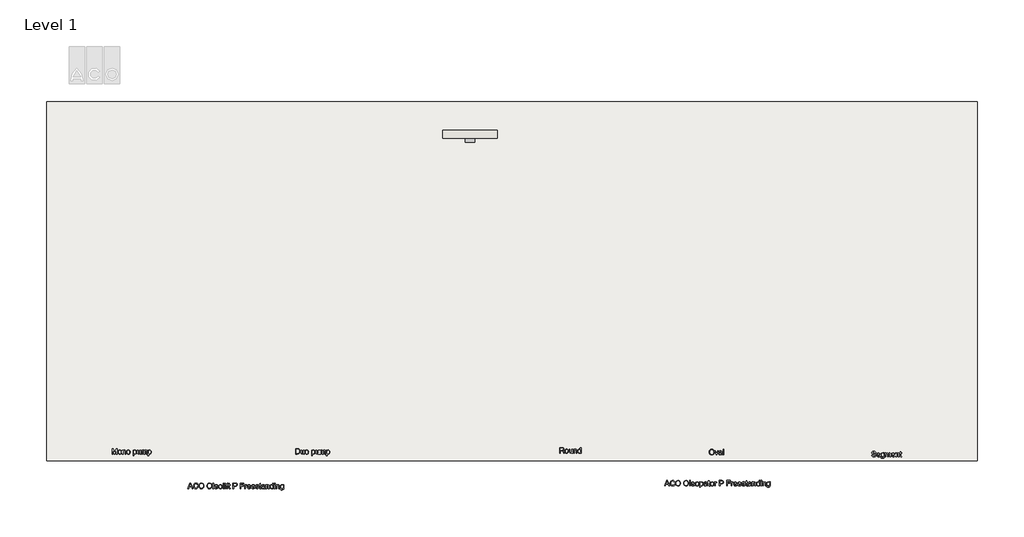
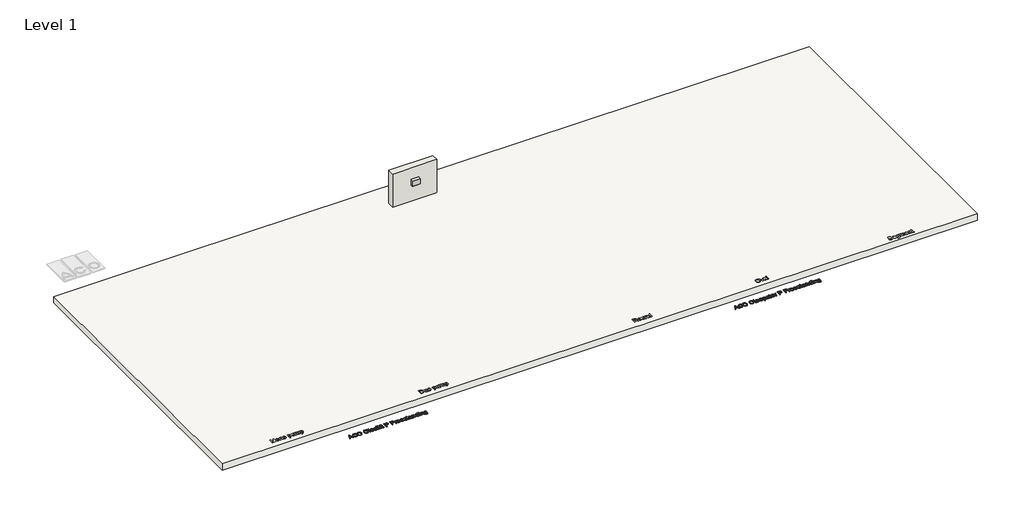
# One storey, part 1 of 2: 3 proxies, 1 slab, 1 wall.
"""IFC4 building model written with IfcOpenShell, lengths in millimetres."""

from ifc_helpers import new_model, si_unit, frame, origin, origin_with_axes, place, context, project, spatial, polyline, outline, extrude, transform, mapped, element, save
from components import alarm_device_213a9ecc

model = new_model("IFC4")

# Units and contexts
model_context = context("Model", 3, world=origin())
ifc_project = project(units=[si_unit("LENGTHUNIT", "METRE", prefix="MILLI")], contexts=[model_context])

# Site, building, storey
site = spatial("IfcSite", under=ifc_project)
building = spatial("IfcBuilding", under=site)
storey = spatial("IfcBuildingStorey", under=building, Name="Level 1", Elevation=0.0)

# Proxies
placement = place(None, origin())
element("IfcBuildingElementProxy", 1, Name="100mm ACO", ObjectType="100mm ACO", at=placement, inside=storey, context=model_context, shape_type="SweptSolid", body=[
    extrude(outline(polyline([(10944.551708, -16385.6235522), (10930.6689535, -16385.6235522), (10918.6197704, -16355.8207418), (10875.9237519, -16355.8207418), (10864.3402377, -16385.6235522), (10850.4865875, -16385.6235522), (10889.5736719, -16285.0390669), (10903.8347824, -16285.0390669), (10944.551708, -16385.6235522)]), holes=[polyline([(10914.0794985, -16344.6446878), (10899.5710014, -16307.7695307), (10896.5878099, -16296.040495), (10891.9020165, -16314.7254601), (10880.2893979, -16344.6446878), (10914.0794985, -16344.6446878)])]), origin_with_axes(), (0.0, 0.0, 1.0), 10.0),
    extrude(outline(polyline([(11039.0824975, -16353.6088144), (11033.1343047, -16368.5211338), (11023.9628099, -16379.0896353), (11012.1064428, -16385.3870797), (10998.1036331, -16387.4862279), (10977.0757712, -16383.608079), (10962.654587, -16371.9736322), (10954.316203, -16354.8821279), (10951.5367417, -16334.6328062), (10954.8000621, -16313.1210852), (10964.5900234, -16296.8408634), (10979.5096189, -16286.5925093), (10998.1618417, -16283.1763912), (11011.553461, -16284.9990485), (11022.8568462, -16290.4670202), (11031.5772243, -16299.449337), (11037.2198218, -16311.8150294), (11024.1810922, -16314.8418774), (11014.2710757, -16299.4893554), (10997.6670685, -16294.3524452), (10983.3623015, -16297.0773359), (10972.986616, -16305.2520082), (10966.6782575, -16318.0106088), (10964.5754713, -16334.4872847), (10966.8019508, -16352.9576055), (10973.4813893, -16365.9926971), (10983.7406575, -16373.7308047), (10996.7066263, -16376.310174), (11007.3369745, -16374.6839708), (11015.7699475, -16369.8053613), (11022.0055453, -16361.6597934), (11026.0437679, -16350.2327148), (11039.0824975, -16353.6088144)])), origin_with_axes(), (0.0, 0.0, 1.0), 10.0),
    extrude(outline(polyline([(11098.7754313, -16283.1763912), (11117.3730835, -16286.7707732), (11132.2453845, -16297.553919), (11142.0026034, -16314.2234108), (11145.2550097, -16335.4768311), (11141.9844132, -16356.6393004), (11132.1726237, -16373.2105652), (11117.2821326, -16383.9173122), (11098.7754313, -16387.4862279), (11079.792147, -16383.7863428), (11064.9271222, -16372.6866877), (11055.3227008, -16356.2609444), (11052.121227, -16336.5827948), (11055.3663573, -16314.3725704), (11065.101748, -16297.4520539), (11080.0104293, -16286.7453069), (11098.7754313, -16283.1763912)]), holes=[polyline([(11098.6590141, -16376.310174), (11112.1779647, -16373.6107495), (11122.8737976, -16365.512476), (11129.8515552, -16352.6047158), (11132.2162802, -16335.4768311), (11129.8479172, -16317.9669523), (11122.7428282, -16305.0191737), (11112.0506334, -16297.0191273), (11098.9209528, -16294.3524452), (11085.4965912, -16296.9645567), (11074.677065, -16304.8008914), (11067.5392337, -16318.0360751), (11065.1599566, -16336.8447335), (11067.4883012, -16352.8193601), (11074.4733349, -16365.4106109), (11085.1764438, -16373.5852832), (11098.6590141, -16376.310174)])]), origin_with_axes(), (0.0, 0.0, 1.0), 10.0),
    extrude(outline(polyline([(11245.926808, -16283.1763912), (11264.5244602, -16286.7707732), (11279.3967611, -16297.553919), (11289.1539801, -16314.2234108), (11292.4063864, -16335.4768311), (11289.1357899, -16356.6393004), (11279.3240004, -16373.2105652), (11264.4335092, -16383.9173122), (11245.926808, -16387.4862279), (11226.9435237, -16383.7863428), (11212.0784988, -16372.6866877), (11202.4740775, -16356.2609444), (11199.2726037, -16336.5827948), (11202.5177339, -16314.3725704), (11212.2531247, -16297.4520539), (11227.161806, -16286.7453069), (11245.926808, -16283.1763912)]), holes=[polyline([(11245.8103907, -16376.310174), (11259.3293414, -16373.6107495), (11270.0251742, -16365.512476), (11277.0029319, -16352.6047158), (11279.3676568, -16335.4768311), (11276.9992938, -16317.9669523), (11269.8942049, -16305.0191737), (11259.20201, -16297.0191273), (11246.0723295, -16294.3524452), (11232.6479679, -16296.9645567), (11221.8284417, -16304.8008914), (11214.6906104, -16318.0360751), (11212.3113333, -16336.8447335), (11214.6396778, -16352.8193601), (11221.6247115, -16365.4106109), (11232.3278205, -16373.5852832), (11245.8103907, -16376.310174)])]), origin_with_axes(), (0.0, 0.0, 1.0), 10.0),
    extrude(outline(polyline([(11322.2091969, -16385.6235522), (11309.1704673, -16385.6235522), (11309.1704673, -16285.0390669), (11322.2091969, -16285.0390669), (11322.2091969, -16385.6235522)])), origin_with_axes(), (0.0, 0.0, 1.0), 10.0),
    extrude(outline(polyline([(11404.1669256, -16352.0953904), (11350.1493317, -16352.0953904), (11352.2339277, -16363.2859965), (11356.9742917, -16371.478859), (11363.7956137, -16376.4993519), (11372.1230835, -16378.1728496), (11383.8666714, -16374.4620505), (11391.1281961, -16363.2714444), (11404.1669256, -16364.7848683), (11399.7648992, -16374.4620505), (11392.7871416, -16381.6071578), (11383.4883155, -16386.0164604), (11372.1230835, -16387.4862279), (11357.4508747, -16384.9650673), (11346.3803239, -16377.4015855), (11339.4280326, -16365.4724576), (11337.1106021, -16349.8543588), (11339.3443577, -16334.2253459), (11346.0456244, -16321.8560154), (11356.8069419, -16313.8013984), (11371.22085, -16311.1165261), (11386.5297155, -16314.5944908), (11399.0300154, -16326.4399437), (11402.8826981, -16337.0375496), (11404.1669256, -16352.0953904)]), holes=[polyline([(11391.1281961, -16342.7820122), (11389.032686, -16332.5664004), (11384.2595796, -16325.6686796), (11370.9007026, -16320.4299043), (11362.9988833, -16321.9869848), (11356.6395922, -16326.658226), (11350.1493317, -16342.7820122), (11391.1281961, -16342.7820122)])]), origin_with_axes(), (0.0, 0.0, 1.0), 10.0),
    extrude(outline(polyline([(11448.842037, -16311.1165261), (11462.0954109, -16313.5249075), (11472.8676425, -16320.7500517), (11480.016388, -16332.4136028), (11482.3993031, -16348.1372047), (11479.8199339, -16366.5165746), (11472.0818263, -16378.5803099), (11461.1131405, -16385.2597484), (11448.842037, -16387.4862279), (11436.1780254, -16385.1979017), (11425.3112048, -16378.3329233), (11417.8350359, -16366.4983844), (11415.3429796, -16349.301377), (11417.751361, -16332.4863635), (11424.9765052, -16320.5754259), (11435.759651, -16313.481251), (11448.842037, -16311.1165261)]), holes=[polyline([(11448.842037, -16378.1728496), (11457.7006605, -16376.1537383), (11464.1363504, -16370.0964044), (11469.3605735, -16348.8357081), (11467.88353, -16336.4809297), (11463.4523992, -16327.5895639), (11456.8457215, -16322.2198192), (11448.842037, -16320.4299043), (11440.6819169, -16322.2452855), (11434.1298098, -16327.6914289), (11429.8187343, -16336.7319543), (11428.3817092, -16349.3304813), (11429.8442006, -16361.8853517), (11434.2316749, -16370.911325), (11440.8092483, -16376.3574685), (11448.842037, -16378.1728496)])]), origin_with_axes(), (0.0, 0.0, 1.0), 10.0),
    extrude(outline(polyline([(11510.4704073, -16321.7395981), (11518.9761411, -16313.7722941), (11530.7124529, -16311.1165261), (11543.1108877, -16313.7213615), (11552.5988918, -16321.535868), (11558.6234834, -16333.5341186), (11560.6316806, -16348.6901865), (11558.3615446, -16364.6720892), (11551.5511368, -16376.9941252), (11541.4373901, -16384.8632022), (11529.2572375, -16387.4862279), (11518.8233434, -16385.3470613), (11510.6886896, -16378.9295616), (11510.3394379, -16413.563687), (11497.3007084, -16413.563687), (11497.3007084, -16312.9792017), (11510.3394379, -16312.9792017), (11510.4704073, -16321.7395981)]), holes=[polyline([(11527.8311265, -16378.1728496), (11535.649271, -16376.3356402), (11541.9903719, -16370.8240121), (11546.1923062, -16361.6743455), (11547.592951, -16348.923021), (11546.2432388, -16336.7756108), (11542.194102, -16327.8078462), (11536.0421791, -16322.2743898), (11528.3841083, -16320.4299043), (11520.4568227, -16322.485396), (11514.0793414, -16328.6518711), (11509.8774071, -16338.0925807), (11508.4767623, -16349.970776), (11509.8191984, -16362.1545666), (11513.8465069, -16370.9986379), (11520.0275342, -16376.3792967), (11527.8311265, -16378.1728496)])]), origin_with_axes(), (0.0, 0.0, 1.0), 10.0),
    extrude(outline(polyline([(11638.8640581, -16385.6235522), (11625.8253285, -16385.6235522), (11622.0999772, -16376.8340515), (11609.5341926, -16384.8231838), (11595.9934137, -16387.4862279), (11585.9487897, -16386.0310125), (11578.2834428, -16381.6653665), (11573.4266616, -16374.9131672), (11571.8077345, -16366.2982923), (11573.3939192, -16357.9417181), (11578.1524735, -16351.2077091), (11586.8328331, -16346.2854431), (11600.1844339, -16343.3640983), (11611.5933223, -16341.6178399), (11622.0999772, -16339.0566609), (11621.7652776, -16330.9802157), (11619.8152891, -16326.0761399), (11614.6201702, -16321.9869848), (11604.9866446, -16320.4299043), (11592.8355964, -16323.5877216), (11586.7091397, -16335.3313096), (11573.6704102, -16333.7305727), (11577.2466019, -16323.8642126), (11583.9587827, -16316.7918659), (11593.7996766, -16312.535361), (11606.7620073, -16311.1165261), (11626.1309237, -16315.0019511), (11633.7271479, -16324.3735379), (11635.1387068, -16338.503679), (11635.1387068, -16355.1222384), (11635.6916886, -16375.4952534), (11638.8640581, -16385.6235522)]), holes=[polyline([(11622.0999772, -16353.0267283), (11622.0999772, -16348.3700391), (11598.6855621, -16353.7252316), (11588.3062386, -16357.8071107), (11584.8464641, -16366.0945622), (11588.5718154, -16374.7676457), (11599.3113047, -16378.1728496), (11615.2168085, -16372.4684054), (11620.379185, -16364.755764), (11622.0999772, -16353.0267283)])]), origin_with_axes(), (0.0, 0.0, 1.0), 10.0),
    extrude(outline(polyline([(11681.7055981, -16386.642203), (11672.5668457, -16387.4862279), (11660.9105707, -16384.5903493), (11656.4430595, -16377.2415118), (11655.6281389, -16364.843077), (11655.6281389, -16322.29258), (11646.3147607, -16322.29258), (11646.3147607, -16312.9792017), (11655.6281389, -16312.9792017), (11655.6281389, -16294.527071), (11668.6668685, -16286.9017426), (11668.6668685, -16312.9792017), (11679.8429224, -16312.9792017), (11679.8429224, -16322.29258), (11668.6668685, -16322.29258), (11668.6668685, -16367.4624646), (11669.7146236, -16375.7280878), (11675.0407118, -16378.1728496), (11680.1048612, -16378.1728496), (11681.7055981, -16386.642203)])), origin_with_axes(), (0.0, 0.0, 1.0), 10.0),
    extrude(outline(polyline([(11722.6553582, -16311.1165261), (11735.908732, -16313.5249075), (11746.6809637, -16320.7500517), (11753.8297091, -16332.4136028), (11756.2126243, -16348.1372047), (11753.633255, -16366.5165746), (11745.8951474, -16378.5803099), (11734.9264617, -16385.2597484), (11722.6553582, -16387.4862279), (11709.9913466, -16385.1979017), (11699.1245259, -16378.3329233), (11691.648357, -16366.4983844), (11689.1563007, -16349.301377), (11691.5646821, -16332.4863635), (11698.7898264, -16320.5754259), (11709.5729721, -16313.481251), (11722.6553582, -16311.1165261)]), holes=[polyline([(11722.6553582, -16378.1728496), (11731.5139817, -16376.1537383), (11737.9496716, -16370.0964044), (11743.1738947, -16348.8357081), (11741.6968511, -16336.4809297), (11737.2657203, -16327.5895639), (11730.6590426, -16322.2198192), (11722.6553582, -16320.4299043), (11714.4952381, -16322.2452855), (11707.9431309, -16327.6914289), (11703.6320555, -16336.7319543), (11702.1950303, -16349.3304813), (11703.6575217, -16361.8853517), (11708.044996, -16370.911325), (11714.6225694, -16376.3574685), (11722.6553582, -16378.1728496)])]), origin_with_axes(), (0.0, 0.0, 1.0), 10.0),
    extrude(outline(polyline([(11810.2302182, -16313.9687482), (11806.1556152, -16322.29258), (11797.598949, -16320.4299043), (11791.7708115, -16322.0670216), (11787.557963, -16326.9783734), (11784.1527591, -16345.3140869), (11784.1527591, -16385.6235522), (11771.1140295, -16385.6235522), (11771.1140295, -16312.9792017), (11782.2900834, -16312.9792017), (11782.2900834, -16323.7477953), (11789.260565, -16314.2743434), (11797.7444705, -16311.1165261), (11810.2302182, -16313.9687482)])), origin_with_axes(), (0.0, 0.0, 1.0), 10.0),
    extrude(outline(polyline([(11858.6597852, -16285.0390669), (11896.4371758, -16285.0390669), (11911.8333543, -16285.9267483), (11923.8243288, -16290.5397809), (11932.1918171, -16300.6535277), (11935.0294871, -16314.0269568), (11932.7920934, -16326.5308947), (11926.0799126, -16336.2771995), (11914.4345517, -16342.5528158), (11897.397618, -16344.6446878), (11871.6985148, -16344.6446878), (11871.6985148, -16385.6235522), (11858.6597852, -16385.6235522), (11858.6597852, -16285.0390669)]), holes=[polyline([(11871.6985148, -16333.4686339), (11897.9214955, -16333.4686339), (11915.973442, -16328.7028036), (11920.4864286, -16322.7455158), (11921.9907575, -16314.4053128), (11918.8620445, -16303.3602282), (11911.1785074, -16297.3938453), (11897.6304524, -16296.2151208), (11871.6985148, -16296.2151208), (11871.6985148, -16333.4686339)])]), origin_with_axes(), (0.0, 0.0, 1.0), 10.0),
    extrude(outline(polyline([(12057.9660802, -16296.2151208), (12003.9484863, -16296.2151208), (12003.9484863, -16327.8806069), (12050.5153776, -16327.8806069), (12050.5153776, -16339.0566609), (12003.9484863, -16339.0566609), (12003.9484863, -16385.6235522), (11990.9097567, -16385.6235522), (11990.9097567, -16285.0390669), (12057.9660802, -16285.0390669), (12057.9660802, -16296.2151208)])), origin_with_axes(), (0.0, 0.0, 1.0), 10.0),
    extrude(outline(polyline([(12113.8463498, -16313.9687482), (12109.7717469, -16322.29258), (12101.2150806, -16320.4299043), (12095.3869431, -16322.0670216), (12091.1740946, -16326.9783734), (12087.7688907, -16345.3140869), (12087.7688907, -16385.6235522), (12074.7301611, -16385.6235522), (12074.7301611, -16312.9792017), (12085.906215, -16312.9792017), (12085.906215, -16323.7477953), (12092.8766966, -16314.2743434), (12101.3606021, -16311.1165261), (12113.8463498, -16313.9687482)])), origin_with_axes(), (0.0, 0.0, 1.0), 10.0),
    extrude(outline(polyline([(12184.6280247, -16352.0953904), (12130.6104307, -16352.0953904), (12132.6950267, -16363.2859965), (12137.4353907, -16371.478859), (12144.2567127, -16376.4993519), (12152.5841826, -16378.1728496), (12164.3277705, -16374.4620505), (12171.5892951, -16363.2714444), (12184.6280247, -16364.7848683), (12180.2259983, -16374.4620505), (12173.2482406, -16381.6071578), (12163.9494145, -16386.0164604), (12152.5841826, -16387.4862279), (12137.9119738, -16384.9650673), (12126.841423, -16377.4015855), (12119.8891316, -16365.4724576), (12117.5717012, -16349.8543588), (12119.8054567, -16334.2253459), (12126.5067234, -16321.8560154), (12137.268041, -16313.8013984), (12151.6819491, -16311.1165261), (12166.9908146, -16314.5944908), (12179.4911145, -16326.4399437), (12183.3437971, -16337.0375496), (12184.6280247, -16352.0953904)]), holes=[polyline([(12171.5892951, -16342.7820122), (12169.493785, -16332.5664004), (12164.7206786, -16325.6686796), (12151.3618017, -16320.4299043), (12143.4599823, -16321.9869848), (12137.1006912, -16326.658226), (12130.6104307, -16342.7820122), (12171.5892951, -16342.7820122)])]), origin_with_axes(), (0.0, 0.0, 1.0), 10.0),
    extrude(outline(polyline([(12262.8604022, -16352.0953904), (12208.8428082, -16352.0953904), (12210.9274042, -16363.2859965), (12215.6677682, -16371.478859), (12222.4890902, -16376.4993519), (12230.8165601, -16378.1728496), (12242.560148, -16374.4620505), (12249.8216726, -16363.2714444), (12262.8604022, -16364.7848683), (12258.4583757, -16374.4620505), (12251.4806181, -16381.6071578), (12242.181792, -16386.0164604), (12230.8165601, -16387.4862279), (12216.1443512, -16384.9650673), (12205.0738004, -16377.4015855), (12198.1215091, -16365.4724576), (12195.8040786, -16349.8543588), (12198.0378342, -16334.2253459), (12204.7391009, -16321.8560154), (12215.5004184, -16313.8013984), (12229.9143265, -16311.1165261), (12245.2231921, -16314.5944908), (12257.723492, -16326.4399437), (12261.5761746, -16337.0375496), (12262.8604022, -16352.0953904)]), holes=[polyline([(12249.8216726, -16342.7820122), (12247.7261625, -16332.5664004), (12242.9530561, -16325.6686796), (12229.5941792, -16320.4299043), (12221.6923598, -16321.9869848), (12215.3330687, -16326.658226), (12208.8428082, -16342.7820122), (12249.8216726, -16342.7820122)])]), origin_with_axes(), (0.0, 0.0, 1.0), 10.0),
    extrude(outline(polyline([(12318.7406718, -16333.4686339), (12313.923909, -16323.6895867), (12302.7915115, -16320.4299043), (12291.4117274, -16323.2239178), (12287.0751857, -16331.3440195), (12289.9419599, -16338.5327833), (12303.4609106, -16342.4327605), (12321.2872987, -16346.6237807), (12330.3823946, -16352.9830718), (12333.642077, -16364.377408), (12331.6193277, -16373.3597248), (12325.5510797, -16380.8067894), (12316.0994559, -16385.8163683), (12303.9265795, -16387.4862279), (12291.3789851, -16386.0819451), (12281.9091712, -16381.8690966), (12275.5098616, -16374.8549586), (12272.1737804, -16365.0468071), (12285.21251, -16363.2714444), (12290.8441934, -16374.4620505), (12303.9265795, -16378.1728496), (12316.29591, -16374.3165289), (12320.6033474, -16364.9303899), (12318.667911, -16358.9203505), (12313.836596, -16355.5296987), (12300.1721239, -16352.619268), (12286.91875, -16349.3741377), (12279.1151577, -16344.7611051), (12274.0364561, -16332.1007315), (12275.9173219, -16323.7659855), (12281.5599195, -16317.0392526), (12290.3821626, -16312.5972077), (12301.8019651, -16311.1165261), (12313.8038537, -16312.4116677), (12322.8007226, -16316.2970927), (12328.7925719, -16322.765525), (12331.7794014, -16331.8096884), (12318.7406718, -16333.4686339)])), origin_with_axes(), (0.0, 0.0, 1.0), 10.0),
    extrude(outline(polyline([(12374.6209414, -16386.642203), (12365.482189, -16387.4862279), (12353.825914, -16384.5903493), (12349.3584029, -16377.2415118), (12348.5434823, -16364.843077), (12348.5434823, -16322.29258), (12339.230104, -16322.29258), (12339.230104, -16312.9792017), (12348.5434823, -16312.9792017), (12348.5434823, -16294.527071), (12361.5822118, -16286.9017426), (12361.5822118, -16312.9792017), (12372.7582658, -16312.9792017), (12372.7582658, -16322.29258), (12361.5822118, -16322.29258), (12361.5822118, -16367.4624646), (12362.6299669, -16375.7280878), (12367.9560551, -16378.1728496), (12373.0202045, -16378.1728496), (12374.6209414, -16386.642203)])), origin_with_axes(), (0.0, 0.0, 1.0), 10.0),
    extrude(outline(polyline([(12449.1279676, -16385.6235522), (12436.089238, -16385.6235522), (12432.3638867, -16376.8340515), (12419.7981021, -16384.8231838), (12406.2573232, -16387.4862279), (12396.2126992, -16386.0310125), (12388.5473524, -16381.6653665), (12383.6905711, -16374.9131672), (12382.071644, -16366.2982923), (12383.6578288, -16357.9417181), (12388.416383, -16351.2077091), (12397.0967426, -16346.2854431), (12410.4483434, -16343.3640983), (12421.8572318, -16341.6178399), (12432.3638867, -16339.0566609), (12432.0291872, -16330.9802157), (12430.0791986, -16326.0761399), (12424.8840798, -16321.9869848), (12415.2505541, -16320.4299043), (12403.0995059, -16323.5877216), (12396.9730493, -16335.3313096), (12383.9343197, -16333.7305727), (12387.5105114, -16323.8642126), (12394.2226922, -16316.7918659), (12404.0635861, -16312.535361), (12417.0259169, -16311.1165261), (12436.3948332, -16315.0019511), (12443.9910574, -16324.3735379), (12445.4026163, -16338.503679), (12445.4026163, -16355.1222384), (12445.9555981, -16375.4952534), (12449.1279676, -16385.6235522)]), holes=[polyline([(12432.3638867, -16353.0267283), (12432.3638867, -16348.3700391), (12408.9494716, -16353.7252316), (12398.5701481, -16357.8071107), (12395.1103736, -16366.0945622), (12398.8357249, -16374.7676457), (12409.5752142, -16378.1728496), (12425.4807181, -16372.4684054), (12430.6430945, -16364.755764), (12432.3638867, -16353.0267283)])]), origin_with_axes(), (0.0, 0.0, 1.0), 10.0),
    extrude(outline(polyline([(12523.6349937, -16385.6235522), (12510.5962642, -16385.6235522), (12510.5962642, -16340.395459), (12506.7108392, -16324.7082375), (12495.8985891, -16320.4299043), (12485.8139467, -16323.1657092), (12479.0617474, -16330.8783506), (12477.0681024, -16344.9648352), (12477.0681024, -16385.6235522), (12464.0293728, -16385.6235522), (12464.0293728, -16312.9792017), (12475.2054267, -16312.9792017), (12475.2054267, -16323.0783963), (12485.1590998, -16314.0997175), (12498.4888724, -16311.1165261), (12509.9268651, -16313.1829319), (12518.7745745, -16319.3675971), (12522.805521, -16328.1570979), (12523.6349937, -16340.773815), (12523.6349937, -16385.6235522)])), origin_with_axes(), (0.0, 0.0, 1.0), 10.0),
    extrude(outline(polyline([(12601.8673712, -16385.6235522), (12588.8286416, -16385.6235522), (12588.8286416, -16377.4161376), (12580.424773, -16384.9687053), (12568.9795042, -16387.4862279), (12557.0431002, -16384.8304599), (12547.2531389, -16376.8631558), (12540.715584, -16364.661175), (12538.536399, -16349.301377), (12540.624633, -16333.4686339), (12546.8893351, -16321.3612422), (12556.5810694, -16313.6777051), (12568.9503999, -16311.1165261), (12580.3010797, -16313.4157663), (12588.5667029, -16320.3134871), (12588.8286416, -16285.0390669), (12601.8673712, -16285.0390669), (12601.8673712, -16385.6235522)]), holes=[polyline([(12570.4929282, -16378.1728496), (12577.587103, -16376.4556955), (12583.5025534, -16371.3042331), (12587.4971196, -16362.6602539), (12588.8286416, -16350.4655493), (12583.9536702, -16328.5791103), (12578.0200296, -16322.4672058), (12569.9690506, -16320.4299043), (12561.9762803, -16322.4235494), (12556.2172655, -16328.4044845), (12551.5751285, -16349.3304813), (12554.078099, -16365.1777765), (12561.0631327, -16374.9131672), (12570.4929282, -16378.1728496)])]), origin_with_axes(), (0.0, 0.0, 1.0), 10.0),
    extrude(outline(polyline([(12633.5328573, -16385.6235522), (12620.4941277, -16385.6235522), (12620.4941277, -16312.9792017), (12633.5328573, -16312.9792017), (12633.5328573, -16385.6235522)])), origin_with_axes(), (0.0, 0.0, 1.0), 10.0),
    extrude(outline(polyline([(12633.5328573, -16298.0777965), (12620.4941277, -16298.0777965), (12620.4941277, -16285.0390669), (12633.5328573, -16285.0390669), (12633.5328573, -16298.0777965)])), origin_with_axes(), (0.0, 0.0, 1.0), 10.0),
    extrude(outline(polyline([(12711.7652348, -16385.6235522), (12698.7265052, -16385.6235522), (12698.7265052, -16340.395459), (12694.8410802, -16324.7082375), (12684.0288301, -16320.4299043), (12673.9441877, -16323.1657092), (12667.1919885, -16330.8783506), (12665.1983434, -16344.9648352), (12665.1983434, -16385.6235522), (12652.1596139, -16385.6235522), (12652.1596139, -16312.9792017), (12663.3356678, -16312.9792017), (12663.3356678, -16323.0783963), (12673.2893408, -16314.0997175), (12686.6191135, -16311.1165261), (12698.0571062, -16313.1829319), (12706.9048155, -16319.3675971), (12710.935762, -16328.1570979), (12711.7652348, -16340.773815), (12711.7652348, -16385.6235522)])), origin_with_axes(), (0.0, 0.0, 1.0), 10.0),
    extrude(outline(polyline([(12789.9976123, -16374.9131672), (12786.9271079, -16397.6872875), (12775.9984406, -16409.387219), (12757.2261625, -16413.563687), (12745.9446054, -16412.1484901), (12736.7221781, -16407.9028993), (12730.5775313, -16400.4340065), (12728.5293157, -16389.3489035), (12741.5680453, -16391.4153093), (12746.1665258, -16401.0342828), (12757.4298926, -16404.2503088), (12770.8178739, -16400.5395096), (12776.0129927, -16391.5026223), (12776.9588827, -16376.8049472), (12768.1330016, -16383.418901), (12757.2552668, -16385.6235522), (12744.7913473, -16382.9968885), (12735.0486805, -16375.1168974), (12728.7621501, -16363.235064), (12726.66664, -16348.6028736), (12728.6602851, -16333.8760942), (12734.6412202, -16321.8269111), (12744.1437764, -16313.7941223), (12756.702285, -16311.1165261), (12767.8419585, -16313.5103553), (12776.6969439, -16320.6918431), (12776.9588827, -16312.9792017), (12789.9976123, -16312.9792017), (12789.9976123, -16374.9131672)]), holes=[polyline([(12759.2052554, -16376.310174), (12766.4595039, -16374.6948849), (12772.8551754, -16369.8490178), (12777.3299626, -16361.2050386), (12778.8215583, -16348.1954133), (12777.3990853, -16336.3390462), (12773.1316663, -16327.604116), (12766.7687372, -16322.2234573), (12759.0597338, -16320.4299043), (12751.2925219, -16322.2671137), (12745.1042186, -16327.7787419), (12741.0550819, -16336.4845677), (12739.7053696, -16347.9043702), (12741.1205665, -16360.6957132), (12745.3661573, -16369.4997661), (12751.6563257, -16374.607572), (12759.2052554, -16376.310174)])]), origin_with_axes(), (0.0, 0.0, 1.0), 10.0),
])
element("IfcBuildingElementProxy", 2, Name="100mm ACO", ObjectType="100mm ACO", at=placement, inside=storey, context=model_context, shape_type="SweptSolid", body=[
    extrude(outline(polyline([(2187.7484293, -16434.4760112), (2173.8656748, -16434.4760112), (2161.8164917, -16404.6732008), (2119.1204732, -16404.6732008), (2107.536959, -16434.4760112), (2093.6833088, -16434.4760112), (2132.7703932, -16333.8915259), (2147.0315037, -16333.8915259), (2187.7484293, -16434.4760112)]), holes=[polyline([(2157.2762198, -16393.4971468), (2142.7677227, -16356.6219898), (2139.7845312, -16344.892954), (2135.0987378, -16363.5779192), (2123.4861193, -16393.4971468), (2157.2762198, -16393.4971468)])]), origin_with_axes(), (0.0, 0.0, 1.0), 10.0),
    extrude(outline(polyline([(2282.2792188, -16402.4612734), (2276.331026, -16417.3735928), (2267.1595312, -16427.9420943), (2255.3031641, -16434.2395387), (2241.3003544, -16436.3386869), (2220.2724925, -16432.460538), (2205.8513083, -16420.8260912), (2197.5129243, -16403.7345869), (2194.733463, -16383.4852652), (2197.9967835, -16361.9735442), (2207.7867448, -16345.6933224), (2222.7063402, -16335.4449683), (2241.358563, -16332.0288503), (2254.7501823, -16333.8515075), (2266.0535676, -16339.3194792), (2274.7739456, -16348.301796), (2280.4165431, -16360.6674884), (2267.3778135, -16363.6943364), (2257.467797, -16348.3418144), (2240.8637898, -16343.2049042), (2226.5590228, -16345.9297949), (2216.1833374, -16354.1044672), (2209.8749788, -16366.8630678), (2207.7721926, -16383.3397437), (2209.9986721, -16401.8100646), (2216.6781106, -16414.8451561), (2226.9373788, -16422.5832638), (2239.9033476, -16425.162633), (2250.5336958, -16423.5364298), (2258.9666688, -16418.6578203), (2265.2022666, -16410.5122524), (2269.2404892, -16399.0851738), (2282.2792188, -16402.4612734)])), origin_with_axes(), (0.0, 0.0, 1.0), 10.0),
    extrude(outline(polyline([(2341.9721526, -16332.0288503), (2360.5698048, -16335.6232322), (2375.4421058, -16346.406378), (2385.1993247, -16363.0758699), (2388.451731, -16384.3292901), (2385.1811345, -16405.4917594), (2375.369345, -16422.0630243), (2360.4788539, -16432.7697712), (2341.9721526, -16436.3386869), (2322.9888683, -16432.6388019), (2308.1238435, -16421.5391467), (2298.5194221, -16405.1134034), (2295.3179483, -16385.4352538), (2298.5630786, -16363.2250294), (2308.2984693, -16346.3045129), (2323.2071506, -16335.5977659), (2341.9721526, -16332.0288503)]), holes=[polyline([(2341.8557354, -16425.162633), (2355.374686, -16422.4632085), (2366.0705189, -16414.364935), (2373.0482765, -16401.4571748), (2375.4130015, -16384.3292901), (2373.0446385, -16366.8194114), (2365.9395495, -16353.8716327), (2355.2473547, -16345.8715863), (2342.1176741, -16343.2049042), (2328.6933125, -16345.8170158), (2317.8737863, -16353.6533504), (2310.735955, -16366.8885341), (2308.3566779, -16385.6971925), (2310.6850225, -16401.6718191), (2317.6700562, -16414.26307), (2328.3731651, -16422.4377422), (2341.8557354, -16425.162633)])]), origin_with_axes(), (0.0, 0.0, 1.0), 10.0),
    extrude(outline(polyline([(2489.1235293, -16332.0288503), (2507.7211815, -16335.6232322), (2522.5934824, -16346.406378), (2532.3507014, -16363.0758699), (2535.6031077, -16384.3292901), (2532.3325112, -16405.4917594), (2522.5207217, -16422.0630243), (2507.6302306, -16432.7697712), (2489.1235293, -16436.3386869), (2470.140245, -16432.6388019), (2455.2752201, -16421.5391467), (2445.6707988, -16405.1134034), (2442.469325, -16385.4352538), (2445.7144553, -16363.2250294), (2455.449846, -16346.3045129), (2470.3585273, -16335.5977659), (2489.1235293, -16332.0288503)]), holes=[polyline([(2489.0071121, -16425.162633), (2502.5260627, -16422.4632085), (2513.2218956, -16414.364935), (2520.1996532, -16401.4571748), (2522.5643781, -16384.3292901), (2520.1960151, -16366.8194114), (2513.0909262, -16353.8716327), (2502.3987314, -16345.8715863), (2489.2690508, -16343.2049042), (2475.8446892, -16345.8170158), (2465.025163, -16353.6533504), (2457.8873317, -16366.8885341), (2455.5080546, -16385.6971925), (2457.8363992, -16401.6718191), (2464.8214329, -16414.26307), (2475.5245418, -16422.4377422), (2489.0071121, -16425.162633)])]), origin_with_axes(), (0.0, 0.0, 1.0), 10.0),
    extrude(outline(polyline([(2565.4059182, -16434.4760112), (2552.3671886, -16434.4760112), (2552.3671886, -16333.8915259), (2565.4059182, -16333.8915259), (2565.4059182, -16434.4760112)])), origin_with_axes(), (0.0, 0.0, 1.0), 10.0),
    extrude(outline(polyline([(2647.363647, -16400.9478495), (2593.346053, -16400.9478495), (2595.430649, -16412.1384555), (2600.171013, -16420.331318), (2606.992335, -16425.351811), (2615.3198048, -16427.0253086), (2627.0633928, -16423.3145095), (2634.3249174, -16412.1239034), (2647.363647, -16413.6373274), (2642.9616205, -16423.3145095), (2635.9838629, -16430.4596169), (2626.6850368, -16434.8689194), (2615.3198048, -16436.3386869), (2600.647596, -16433.8175263), (2589.5770452, -16426.2540445), (2582.6247539, -16414.3249166), (2580.3073234, -16398.7068178), (2582.541079, -16383.0778049), (2589.2423457, -16370.7084744), (2600.0036632, -16362.6538574), (2614.4175713, -16359.9689851), (2629.7264369, -16363.4469498), (2642.2267368, -16375.2924028), (2646.0794194, -16385.8900086), (2647.363647, -16400.9478495)]), holes=[polyline([(2634.3249174, -16391.6344712), (2632.2294073, -16381.4188594), (2627.4563009, -16374.5211386), (2614.0974239, -16369.2823633), (2606.1956046, -16370.8394438), (2599.8363135, -16375.5106851), (2593.346053, -16391.6344712), (2634.3249174, -16391.6344712)])]), origin_with_axes(), (0.0, 0.0, 1.0), 10.0),
    extrude(outline(polyline([(2692.0387583, -16359.9689851), (2705.2921322, -16362.3773665), (2716.0643639, -16369.6025107), (2723.2131093, -16381.2660618), (2725.5960244, -16396.9896637), (2723.0166552, -16415.3690336), (2715.2785476, -16427.4327689), (2704.3098618, -16434.1122074), (2692.0387583, -16436.3386869), (2679.3747467, -16434.0503607), (2668.5079261, -16427.1853823), (2661.0317572, -16415.3508434), (2658.5397009, -16398.153836), (2660.9480823, -16381.3388226), (2668.1732265, -16369.4278849), (2678.9563723, -16362.33371), (2692.0387583, -16359.9689851)]), holes=[polyline([(2692.0387583, -16427.0253086), (2700.8973818, -16425.0061973), (2707.3330717, -16418.9488634), (2712.5572949, -16397.6881671), (2711.0802513, -16385.3333887), (2706.6491205, -16376.4420229), (2700.0424428, -16371.0722782), (2692.0387583, -16369.2823633), (2683.8786382, -16371.0977445), (2677.3265311, -16376.543888), (2673.0154556, -16385.5844134), (2671.5784305, -16398.1829403), (2673.0409219, -16410.7378108), (2677.4283962, -16419.763784), (2684.0059696, -16425.2099275), (2692.0387583, -16427.0253086)])]), origin_with_axes(), (0.0, 0.0, 1.0), 10.0),
    extrude(outline(polyline([(2753.5361592, -16434.4760112), (2740.4974297, -16434.4760112), (2740.4974297, -16333.8915259), (2753.5361592, -16333.8915259), (2753.5361592, -16434.4760112)])), origin_with_axes(), (0.0, 0.0, 1.0), 10.0),
    extrude(outline(polyline([(2785.2016454, -16434.4760112), (2772.1629158, -16434.4760112), (2772.1629158, -16361.8316607), (2785.2016454, -16361.8316607), (2785.2016454, -16434.4760112)])), origin_with_axes(), (0.0, 0.0, 1.0), 10.0),
    extrude(outline(polyline([(2785.2016454, -16346.9302555), (2772.1629158, -16346.9302555), (2772.1629158, -16333.8915259), (2785.2016454, -16333.8915259), (2785.2016454, -16346.9302555)])), origin_with_axes(), (0.0, 0.0, 1.0), 10.0),
    extrude(outline(polyline([(2870.8847254, -16435.494662), (2861.745973, -16436.3386869), (2850.089698, -16433.4428083), (2845.6221869, -16426.0939708), (2844.8072663, -16413.695536), (2844.8072663, -16371.145039), (2835.493888, -16371.145039), (2835.493888, -16361.8316607), (2844.8072663, -16361.8316607), (2844.8072663, -16343.37953), (2857.8459959, -16335.7542016), (2857.8459959, -16361.8316607), (2869.0220498, -16361.8316607), (2869.0220498, -16371.145039), (2857.8459959, -16371.145039), (2857.8459959, -16416.3149236), (2858.8937509, -16424.5805468), (2864.2198391, -16427.0253086), (2869.2839886, -16427.0253086), (2870.8847254, -16435.494662)])), origin_with_axes(), (0.0, 0.0, 1.0), 10.0),
    extrude(outline(polyline([(2837.3565637, -16332.9892924), (2835.7558268, -16341.3422285), (2829.4110878, -16341.3422285), (2823.0663489, -16343.4813951), (2820.5924828, -16354.0608107), (2820.5924828, -16361.8316607), (2831.7685367, -16361.8316607), (2831.7685367, -16371.145039), (2820.5924828, -16371.145039), (2820.5924828, -16434.4760112), (2807.5537532, -16434.4760112), (2807.5537532, -16371.145039), (2796.3776993, -16371.145039), (2796.3776993, -16361.8316607), (2807.5537532, -16361.8316607), (2807.5537532, -16353.8570806), (2808.5287475, -16343.8160946), (2813.6656577, -16335.6668887), (2826.5006571, -16332.0288503), (2837.3565637, -16332.9892924)])), origin_with_axes(), (0.0, 0.0, 1.0), 10.0),
    extrude(outline(polyline([(2923.0396438, -16333.8915259), (2960.8170344, -16333.8915259), (2976.2132128, -16334.7792073), (2988.2041873, -16339.39224), (2996.5716756, -16349.5059867), (2999.4093456, -16362.8794158), (2997.171952, -16375.3833537), (2990.4597711, -16385.1296586), (2978.8144103, -16391.4052748), (2961.7774765, -16393.4971468), (2936.0783733, -16393.4971468), (2936.0783733, -16434.4760112), (2923.0396438, -16434.4760112), (2923.0396438, -16333.8915259)]), holes=[polyline([(2936.0783733, -16382.3210929), (2962.301354, -16382.3210929), (2980.3533005, -16377.5552626), (2984.8662871, -16371.5979748), (2986.370616, -16363.2577718), (2983.241903, -16352.2126872), (2975.5583659, -16346.2463043), (2962.010311, -16345.0675798), (2936.0783733, -16345.0675798), (2936.0783733, -16382.3210929)])]), origin_with_axes(), (0.0, 0.0, 1.0), 10.0),
    extrude(outline(polyline([(3122.3459387, -16345.0675798), (3068.3283448, -16345.0675798), (3068.3283448, -16376.733066), (3114.8952361, -16376.733066), (3114.8952361, -16387.9091199), (3068.3283448, -16387.9091199), (3068.3283448, -16434.4760112), (3055.2896152, -16434.4760112), (3055.2896152, -16333.8915259), (3122.3459387, -16333.8915259), (3122.3459387, -16345.0675798)])), origin_with_axes(), (0.0, 0.0, 1.0), 10.0),
    extrude(outline(polyline([(3178.2262084, -16362.8212072), (3174.1516054, -16371.145039), (3165.5949391, -16369.2823633), (3159.7668016, -16370.9194806), (3155.5539531, -16375.8308324), (3152.1487492, -16394.1665459), (3152.1487492, -16434.4760112), (3139.1100196, -16434.4760112), (3139.1100196, -16361.8316607), (3150.2860736, -16361.8316607), (3150.2860736, -16372.6002544), (3157.2565551, -16363.1268024), (3165.7404606, -16359.9689851), (3178.2262084, -16362.8212072)])), origin_with_axes(), (0.0, 0.0, 1.0), 10.0),
    extrude(outline(polyline([(3249.0078832, -16400.9478495), (3194.9902893, -16400.9478495), (3197.0748852, -16412.1384555), (3201.8152493, -16420.331318), (3208.6365712, -16425.351811), (3216.9640411, -16427.0253086), (3228.707629, -16423.3145095), (3235.9691536, -16412.1239034), (3249.0078832, -16413.6373274), (3244.6058568, -16423.3145095), (3237.6280991, -16430.4596169), (3228.329273, -16434.8689194), (3216.9640411, -16436.3386869), (3202.2918323, -16433.8175263), (3191.2212815, -16426.2540445), (3184.2689901, -16414.3249166), (3181.9515597, -16398.7068178), (3184.1853152, -16383.0778049), (3190.886582, -16370.7084744), (3201.6478995, -16362.6538574), (3216.0618076, -16359.9689851), (3231.3706731, -16363.4469498), (3243.870973, -16375.2924028), (3247.7236557, -16385.8900086), (3249.0078832, -16400.9478495)]), holes=[polyline([(3235.9691536, -16391.6344712), (3233.8736435, -16381.4188594), (3229.1005372, -16374.5211386), (3215.7416602, -16369.2823633), (3207.8398408, -16370.8394438), (3201.4805497, -16375.5106851), (3194.9902893, -16391.6344712), (3235.9691536, -16391.6344712)])]), origin_with_axes(), (0.0, 0.0, 1.0), 10.0),
    extrude(outline(polyline([(3327.2402607, -16400.9478495), (3273.2226667, -16400.9478495), (3275.3072627, -16412.1384555), (3280.0476267, -16420.331318), (3286.8689487, -16425.351811), (3295.1964186, -16427.0253086), (3306.9400065, -16423.3145095), (3314.2015311, -16412.1239034), (3327.2402607, -16413.6373274), (3322.8382342, -16423.3145095), (3315.8604766, -16430.4596169), (3306.5616505, -16434.8689194), (3295.1964186, -16436.3386869), (3280.5242098, -16433.8175263), (3269.453659, -16426.2540445), (3262.5013676, -16414.3249166), (3260.1839371, -16398.7068178), (3262.4176927, -16383.0778049), (3269.1189594, -16370.7084744), (3279.880277, -16362.6538574), (3294.2941851, -16359.9689851), (3309.6030506, -16363.4469498), (3322.1033505, -16375.2924028), (3325.9560331, -16385.8900086), (3327.2402607, -16400.9478495)]), holes=[polyline([(3314.2015311, -16391.6344712), (3312.106021, -16381.4188594), (3307.3329146, -16374.5211386), (3293.9740377, -16369.2823633), (3286.0722183, -16370.8394438), (3279.7129272, -16375.5106851), (3273.2226667, -16391.6344712), (3314.2015311, -16391.6344712)])]), origin_with_axes(), (0.0, 0.0, 1.0), 10.0),
    extrude(outline(polyline([(3383.1205303, -16382.3210929), (3378.3037675, -16372.5420457), (3367.17137, -16369.2823633), (3355.791586, -16372.0763768), (3351.4550442, -16380.1964785), (3354.3218184, -16387.3852424), (3367.8407691, -16391.2852195), (3385.6671572, -16395.4762397), (3394.7622532, -16401.8355308), (3398.0219355, -16413.2298671), (3395.9991862, -16422.2121838), (3389.9309382, -16429.6592484), (3380.4793144, -16434.6688273), (3368.306438, -16436.3386869), (3355.7588436, -16434.9344041), (3346.2890297, -16430.7215556), (3339.8897202, -16423.7074176), (3336.553639, -16413.8992661), (3349.5923685, -16412.1239034), (3355.224052, -16423.3145095), (3368.306438, -16427.0253086), (3380.6757685, -16423.1689879), (3384.983206, -16413.7828489), (3383.0477695, -16407.7728095), (3378.2164546, -16404.3821577), (3364.5519824, -16401.471727), (3351.2986085, -16398.2265968), (3343.4950162, -16393.6135641), (3338.4163146, -16380.9531905), (3340.2971805, -16372.6184445), (3345.939778, -16365.8917116), (3354.7620211, -16361.4496667), (3366.1818236, -16359.9689851), (3378.1837122, -16361.2641267), (3387.1805812, -16365.1495517), (3393.1724304, -16371.617984), (3396.1592599, -16380.6621474), (3383.1205303, -16382.3210929)])), origin_with_axes(), (0.0, 0.0, 1.0), 10.0),
    extrude(outline(polyline([(3439.0007999, -16435.494662), (3429.8620475, -16436.3386869), (3418.2057725, -16433.4428083), (3413.7382614, -16426.0939708), (3412.9233408, -16413.695536), (3412.9233408, -16371.145039), (3403.6099625, -16371.145039), (3403.6099625, -16361.8316607), (3412.9233408, -16361.8316607), (3412.9233408, -16343.37953), (3425.9620704, -16335.7542016), (3425.9620704, -16361.8316607), (3437.1381243, -16361.8316607), (3437.1381243, -16371.145039), (3425.9620704, -16371.145039), (3425.9620704, -16416.3149236), (3427.0098254, -16424.5805468), (3432.3359136, -16427.0253086), (3437.400063, -16427.0253086), (3439.0007999, -16435.494662)])), origin_with_axes(), (0.0, 0.0, 1.0), 10.0),
    extrude(outline(polyline([(3513.5078261, -16434.4760112), (3500.4690965, -16434.4760112), (3496.7437452, -16425.6865105), (3484.1779606, -16433.6756428), (3470.6371817, -16436.3386869), (3460.5925578, -16434.8834715), (3452.9272109, -16430.5178255), (3448.0704296, -16423.7656262), (3446.4515026, -16415.1507513), (3448.0376873, -16406.7941772), (3452.7962415, -16400.0601681), (3461.4766011, -16395.1379022), (3474.828202, -16392.2165573), (3486.2370903, -16390.4702989), (3496.7437452, -16387.9091199), (3496.4090457, -16379.8326747), (3494.4590571, -16374.9285989), (3489.2639383, -16370.8394438), (3479.6304126, -16369.2823633), (3467.4793644, -16372.4401807), (3461.3529078, -16384.1837686), (3448.3141782, -16382.5830317), (3451.8903699, -16372.7166716), (3458.6025508, -16365.644325), (3468.4434446, -16361.38782), (3481.4057754, -16359.9689851), (3500.7746917, -16363.8544101), (3508.3709159, -16373.225997), (3509.7824748, -16387.3561381), (3509.7824748, -16403.9746974), (3510.3354566, -16424.3477124), (3513.5078261, -16434.4760112)]), holes=[polyline([(3496.7437452, -16401.8791873), (3496.7437452, -16397.2224982), (3473.3293302, -16402.5776907), (3462.9500066, -16406.6595697), (3459.4902321, -16414.9470212), (3463.2155834, -16423.6201047), (3473.9550728, -16427.0253086), (3489.8605766, -16421.3208644), (3495.0229531, -16413.6082231), (3496.7437452, -16401.8791873)])]), origin_with_axes(), (0.0, 0.0, 1.0), 10.0),
    extrude(outline(polyline([(3588.0148523, -16434.4760112), (3574.9761227, -16434.4760112), (3574.9761227, -16389.247918), (3571.0906977, -16373.5606965), (3560.2784476, -16369.2823633), (3550.1938052, -16372.0181682), (3543.4416059, -16379.7308096), (3541.4479609, -16393.8172942), (3541.4479609, -16434.4760112), (3528.4092313, -16434.4760112), (3528.4092313, -16361.8316607), (3539.5852853, -16361.8316607), (3539.5852853, -16371.9308553), (3549.5389583, -16362.9521766), (3562.8687309, -16359.9689851), (3574.3067236, -16362.0353909), (3583.154433, -16368.2200561), (3587.1853795, -16377.0095569), (3588.0148523, -16389.626274), (3588.0148523, -16434.4760112)])), origin_with_axes(), (0.0, 0.0, 1.0), 10.0),
    extrude(outline(polyline([(3666.2472297, -16434.4760112), (3653.2085002, -16434.4760112), (3653.2085002, -16426.2685966), (3644.8046315, -16433.8211643), (3633.3593627, -16436.3386869), (3621.4229588, -16433.6829189), (3611.6329975, -16425.7156148), (3605.0954425, -16413.5136341), (3602.9162575, -16398.153836), (3605.0044915, -16382.3210929), (3611.2691936, -16370.2137012), (3620.9609279, -16362.5301641), (3633.3302584, -16359.9689851), (3644.6809382, -16362.2682253), (3652.9465614, -16369.1659461), (3653.2085002, -16333.8915259), (3666.2472297, -16333.8915259), (3666.2472297, -16434.4760112)]), holes=[polyline([(3634.8727867, -16427.0253086), (3641.9669615, -16425.3081545), (3647.882412, -16420.1566921), (3651.8769781, -16411.5127129), (3653.2085002, -16399.3180083), (3648.3335287, -16377.4315693), (3642.3998881, -16371.3196648), (3634.3489092, -16369.2823633), (3626.3561388, -16371.2760084), (3620.5971241, -16377.2569435), (3615.9549871, -16398.1829403), (3618.4579575, -16414.0302355), (3625.4429912, -16423.7656262), (3634.8727867, -16427.0253086)])]), origin_with_axes(), (0.0, 0.0, 1.0), 10.0),
    extrude(outline(polyline([(3697.9127158, -16434.4760112), (3684.8739863, -16434.4760112), (3684.8739863, -16361.8316607), (3697.9127158, -16361.8316607), (3697.9127158, -16434.4760112)])), origin_with_axes(), (0.0, 0.0, 1.0), 10.0),
    extrude(outline(polyline([(3697.9127158, -16346.9302555), (3684.8739863, -16346.9302555), (3684.8739863, -16333.8915259), (3697.9127158, -16333.8915259), (3697.9127158, -16346.9302555)])), origin_with_axes(), (0.0, 0.0, 1.0), 10.0),
    extrude(outline(polyline([(3776.1450933, -16434.4760112), (3763.1063637, -16434.4760112), (3763.1063637, -16389.247918), (3759.2209387, -16373.5606965), (3748.4086887, -16369.2823633), (3738.3240463, -16372.0181682), (3731.571847, -16379.7308096), (3729.578202, -16393.8172942), (3729.578202, -16434.4760112), (3716.5394724, -16434.4760112), (3716.5394724, -16361.8316607), (3727.7155263, -16361.8316607), (3727.7155263, -16371.9308553), (3737.6691993, -16362.9521766), (3750.998972, -16359.9689851), (3762.4369647, -16362.0353909), (3771.284674, -16368.2200561), (3775.3156206, -16377.0095569), (3776.1450933, -16389.626274), (3776.1450933, -16434.4760112)])), origin_with_axes(), (0.0, 0.0, 1.0), 10.0),
    extrude(outline(polyline([(3854.3774708, -16423.7656262), (3851.3069664, -16446.5397465), (3840.3782991, -16458.239678), (3821.606021, -16462.416146), (3810.324464, -16461.0009491), (3801.1020367, -16456.7553583), (3794.9573898, -16449.2864655), (3792.9091742, -16438.2013625), (3805.9479038, -16440.2677684), (3810.5463843, -16449.8867418), (3821.8097512, -16453.1027678), (3835.1977324, -16449.3919686), (3840.3928512, -16440.3550813), (3841.3387412, -16425.6574062), (3832.5128601, -16432.27136), (3821.6351253, -16434.4760112), (3809.1712058, -16431.8493475), (3799.428539, -16423.9693564), (3793.1420087, -16412.087523), (3791.0464986, -16397.4553326), (3793.0401436, -16382.7285532), (3799.0210787, -16370.6793701), (3808.523635, -16362.6465813), (3821.0821435, -16359.9689851), (3832.221817, -16362.3628143), (3841.0768024, -16369.5443021), (3841.3387412, -16361.8316607), (3854.3774708, -16361.8316607), (3854.3774708, -16423.7656262)]), holes=[polyline([(3823.5851139, -16425.162633), (3830.8393624, -16423.5473439), (3837.2350339, -16418.7014768), (3841.7098211, -16410.0574976), (3843.2014169, -16397.0478723), (3841.7789439, -16385.1915052), (3837.5115248, -16376.456575), (3831.1485957, -16371.0759163), (3823.4395923, -16369.2823633), (3815.6723804, -16371.1195727), (3809.4840771, -16376.6312009), (3805.4349404, -16385.3370267), (3804.0852281, -16396.7568292), (3805.5004251, -16409.5481722), (3809.7460159, -16418.3522251), (3816.0361842, -16423.460031), (3823.5851139, -16425.162633)])]), origin_with_axes(), (0.0, 0.0, 1.0), 10.0),
])
alarm_device_shape = alarm_device_213a9ecc(model_context)
element("IfcBuildingElementProxy", 3, Name="CD_PVC_WPB_signalling device_ACO : Alarm device", ObjectType="CD_PVC_WPB_signalling device_ACO : Alarm device", at=placement, inside=storey, context=model_context, shape_type="MappedRepresentation", body=[
    mapped(alarm_device_shape, transform((7278.0357745, -9999.0914164, 463.2715573), x_axis=(1.0, 0.0, 0.0), y_axis=(0.0, 0.0, 1.0), z_axis=(0.0, -1.0, 0.0))),
])

# Slab
element("IfcSlab", 4, ObjectType="Floor 1", at=placement, inside=storey, context=model_context, shape_type="SweptSolid", body=[
    extrude(outline(polyline([(2453.3522404, -9324.0914164), (16598.0357745, -9324.0914164), (16598.0357745, -15924.0914164), (-501.9642255, -15924.0914164), (-501.9642255, -9324.0914164), (2453.3522404, -9324.0914164)])), frame((0.0, 0.0, -150.0), z_axis=(0.0, 0.0, 1.0), x_axis=(1.0, 0.0, 0.0)), (0.0, 0.0, 1.0), 150.0),
])

# Wall
element("IfcWall", 5, ObjectType="Wall 1", at=placement, inside=storey, context=model_context, shape_type="SweptSolid", body=[
    extrude(outline(polyline([(7778.0357745, -9999.0914164), (6778.0357745, -9999.0914164), (6778.0357745, -9849.0914164), (7778.0357745, -9849.0914164), (7778.0357745, -9999.0914164)])), origin_with_axes(), (0.0, 0.0, 1.0), 794.746251),
])

save(model, "model.ifc")
